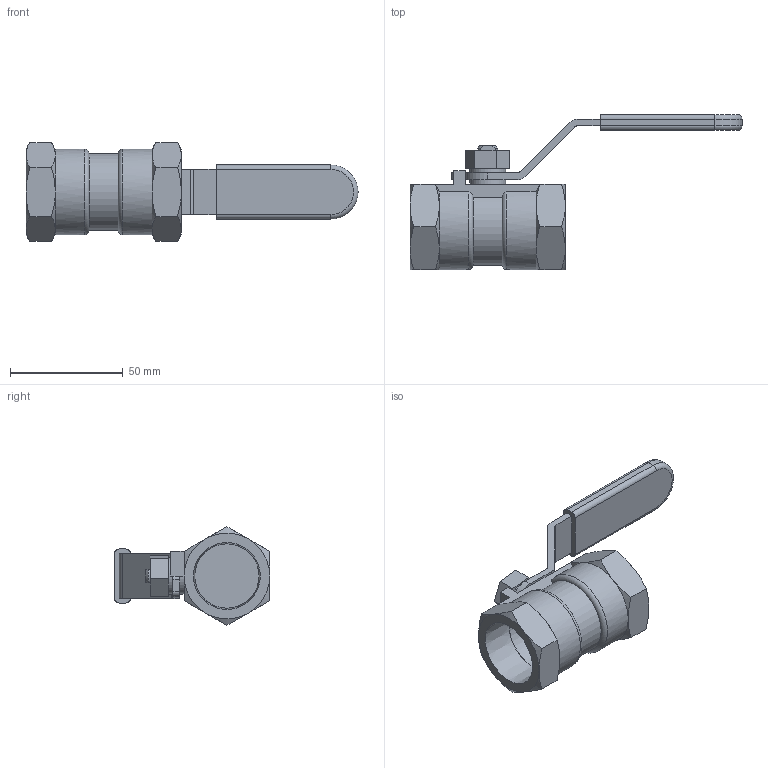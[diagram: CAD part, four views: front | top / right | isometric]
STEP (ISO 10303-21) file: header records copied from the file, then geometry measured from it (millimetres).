
FILE_DESCRIPTION(/* description */ ('Eriks item no: 12427445'),/* implementation_level */ '2;1');
FILE_NAME(/* name */ '7744-DN25-RB-1000PSI-NPT.stp',/* time_stamp */ '2024-02-16T13:17:11+01:00',/* author */ ('roger.thijssen'),/* organization */ (''),/* preprocessor_version */ 'ST-DEVELOPER v19.2',/* originating_system */ 'Autodesk Inventor 2024',/* authorisation */ '');
FILE_SCHEMA (('AUTOMOTIVE_DESIGN { 1 0 10303 214 3 1 1 }'));
Length unit declared in the file: millimetre
Products named in the file (1): Ball valve, 7744-DN25-RB-1000PSI-NPT
Bounding box: 147.5 x 69 x 43.88 mm (x, y, z)
Volume: 63209.8 mm3; surface area: 23640.5 mm2
Topology: 1 solids, 1 shells, 290 faces, 740 edges, 482 vertices
Faces by surface type: plane 208, cylinder 48, cone 28, torus 4, bspline 2
Full cylindrical faces by diameter (mm): 16 x2, 28.575 x2
Entity records: 9023 total; most frequent: CARTESIAN_POINT 1683, ORIENTED_EDGE 1480, DIRECTION 1384, EDGE_CURVE 740, LINE 554, VECTOR 554, VERTEX_POINT 482, AXIS2_PLACEMENT_3D 415
